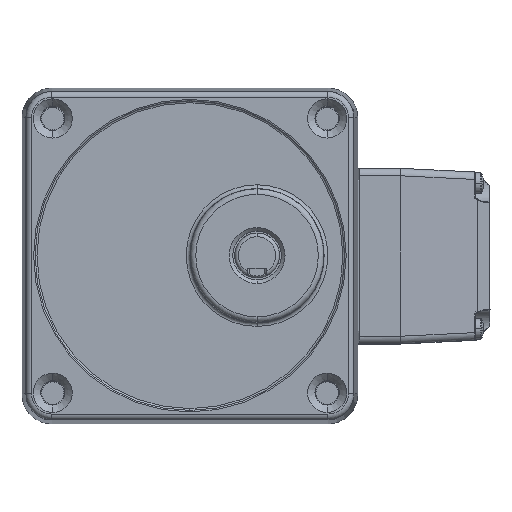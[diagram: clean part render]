
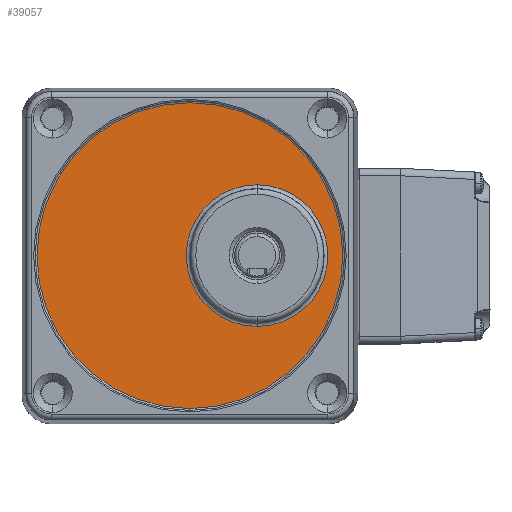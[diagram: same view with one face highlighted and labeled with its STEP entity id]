
A CAD part, top view. The second image highlights one B-rep face of the part: STEP entity #39057.
In plain terms, the highlighted planar face has unit normal (0, 0, 1) as drawn and (1, 0, 0) by its records, which use the part's own axes.
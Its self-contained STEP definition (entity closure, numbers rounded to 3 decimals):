
#1076 = ORIENTED_EDGE ( 'NONE', *, *, #53513, .F. ) ;
#2374 = PLANE ( 'NONE',  #2572 ) ;
#2572 = AXIS2_PLACEMENT_3D ( 'NONE', #19969, #37492, #55082 ) ;
#3272 = CARTESIAN_POINT ( 'NONE',  ( 2697.792, -775.157, 18. ) ) ;
#5208 = DIRECTION ( 'NONE',  ( -1., 0., 0. ) ) ;
#5601 = EDGE_CURVE ( 'NONE', #16037, #7193, #54697, .T. ) ;
#7193 = VERTEX_POINT ( 'NONE', #23406 ) ;
#7225 = CARTESIAN_POINT ( 'NONE',  ( 2697.792, -775.157, 18. ) ) ;
#7977 = CARTESIAN_POINT ( 'NONE',  ( 2697.792, -775.157, 0. ) ) ;
#13134 = AXIS2_PLACEMENT_3D ( 'NONE', #44699, #5208, #22787 ) ;
#16037 = VERTEX_POINT ( 'NONE', #56855 ) ;
#16397 = CIRCLE ( 'NONE', #48629, 40.991 ) ;
#19349 = ORIENTED_EDGE ( 'NONE', *, *, #5601, .F. ) ;
#19489 = CIRCLE ( 'NONE', #51708, 18.983 ) ;
#19969 = CARTESIAN_POINT ( 'NONE',  ( 2697.792, -775.157, 0. ) ) ;
#20867 = DIRECTION ( 'NONE',  ( 1., 0., 0. ) ) ;
#22787 = DIRECTION ( 'NONE',  ( 0., 1., 0. ) ) ;
#22797 = EDGE_LOOP ( 'NONE', ( #1076, #45361 ) ) ;
#23157 = EDGE_LOOP ( 'NONE', ( #24366, #19349 ) ) ;
#23406 = CARTESIAN_POINT ( 'NONE',  ( 2697.792, -794.14, 18. ) ) ;
#24277 = FACE_OUTER_BOUND ( 'NONE', #22797, .T. ) ;
#24366 = ORIENTED_EDGE ( 'NONE', *, *, #35012, .F. ) ;
#24654 = VERTEX_POINT ( 'NONE', #25711 ) ;
#24799 = DIRECTION ( 'NONE',  ( 1., 0., 0. ) ) ;
#25545 = DIRECTION ( 'NONE',  ( -1., 0., 0. ) ) ;
#25711 = CARTESIAN_POINT ( 'NONE',  ( 2697.792, -734.166, 0. ) ) ;
#29863 = AXIS2_PLACEMENT_3D ( 'NONE', #3272, #20867, #38411 ) ;
#35012 = EDGE_CURVE ( 'NONE', #7193, #16037, #19489, .T. ) ;
#37492 = DIRECTION ( 'NONE',  ( 1., 0., 0. ) ) ;
#37973 = CIRCLE ( 'NONE', #13134, 40.991 ) ;
#38411 = DIRECTION ( 'NONE',  ( 0., 1., 0. ) ) ;
#39057 = ADVANCED_FACE ( 'NONE', ( #24277, #41854 ), #2374, .T. ) ;
#40026 = VERTEX_POINT ( 'NONE', #48601 ) ;
#41854 = FACE_BOUND ( 'NONE', #23157, .T. ) ;
#42374 = DIRECTION ( 'NONE',  ( 0., -1., 0. ) ) ;
#43116 = DIRECTION ( 'NONE',  ( 0., -1., 0. ) ) ;
#44692 = EDGE_CURVE ( 'NONE', #24654, #40026, #37973, .T. ) ;
#44699 = CARTESIAN_POINT ( 'NONE',  ( 2697.792, -775.157, 0. ) ) ;
#45361 = ORIENTED_EDGE ( 'NONE', *, *, #44692, .F. ) ;
#48601 = CARTESIAN_POINT ( 'NONE',  ( 2697.792, -816.149, 0. ) ) ;
#48629 = AXIS2_PLACEMENT_3D ( 'NONE', #7977, #25545, #43116 ) ;
#51708 = AXIS2_PLACEMENT_3D ( 'NONE', #7225, #24799, #42374 ) ;
#53513 = EDGE_CURVE ( 'NONE', #40026, #24654, #16397, .T. ) ;
#54697 = CIRCLE ( 'NONE', #29863, 18.983 ) ;
#55082 = DIRECTION ( 'NONE',  ( 0., 1., 0. ) ) ;
#56855 = CARTESIAN_POINT ( 'NONE',  ( 2697.792, -756.175, 18. ) ) ;
